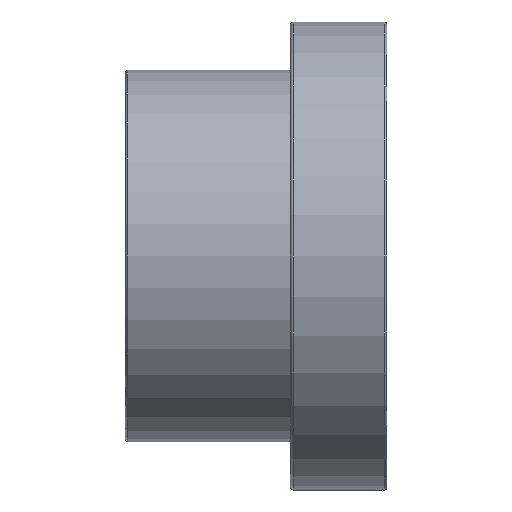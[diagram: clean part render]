
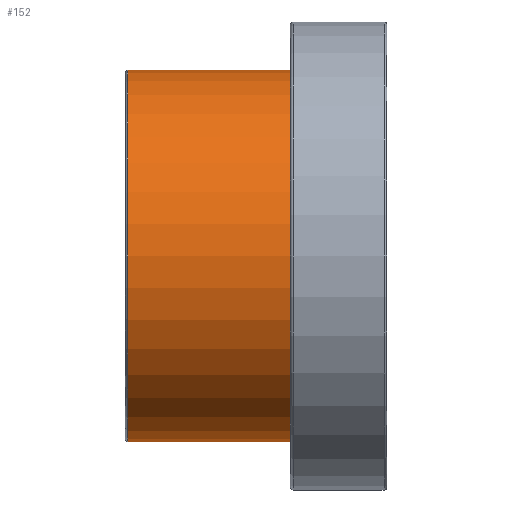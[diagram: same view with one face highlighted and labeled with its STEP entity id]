
A CAD part, front view. The second image highlights one B-rep face of the part: STEP entity #152.
In plain terms, the highlighted cylindrical face has radius 13.5 mm (diameter 27 mm), a full revolution.
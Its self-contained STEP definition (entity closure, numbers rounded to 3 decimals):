
#21=CYLINDRICAL_SURFACE('',#176,13.5);
#30=FACE_BOUND('',#64,.T.);
#43=FACE_OUTER_BOUND('',#63,.T.);
#63=EDGE_LOOP('',(#128));
#64=EDGE_LOOP('',(#129));
#78=CIRCLE('',#166,13.5);
#83=CIRCLE('',#175,13.5);
#91=VERTEX_POINT('',#250);
#96=VERTEX_POINT('',#264);
#104=EDGE_CURVE('',#91,#91,#78,.T.);
#109=EDGE_CURVE('',#96,#96,#83,.T.);
#128=ORIENTED_EDGE('',*,*,#104,.T.);
#129=ORIENTED_EDGE('',*,*,#109,.F.);
#152=ADVANCED_FACE('',(#43,#30),#21,.T.);
#166=AXIS2_PLACEMENT_3D('',#251,#200,#201);
#175=AXIS2_PLACEMENT_3D('',#265,#218,#219);
#176=AXIS2_PLACEMENT_3D('',#266,#220,#221);
#200=DIRECTION('center_axis',(-1.,0.,0.));
#201=DIRECTION('ref_axis',(0.,0.,1.));
#218=DIRECTION('center_axis',(-1.,0.,0.));
#219=DIRECTION('ref_axis',(0.,1.,0.));
#220=DIRECTION('center_axis',(-1.,0.,0.));
#221=DIRECTION('ref_axis',(0.,-1.,0.));
#250=CARTESIAN_POINT('',(12.,-13.5,0.));
#251=CARTESIAN_POINT('Origin',(12.,0.,0.));
#264=CARTESIAN_POINT('',(0.2,-13.5,0.));
#265=CARTESIAN_POINT('Origin',(0.2,0.,0.));
#266=CARTESIAN_POINT('Origin',(6.,0.,0.));
